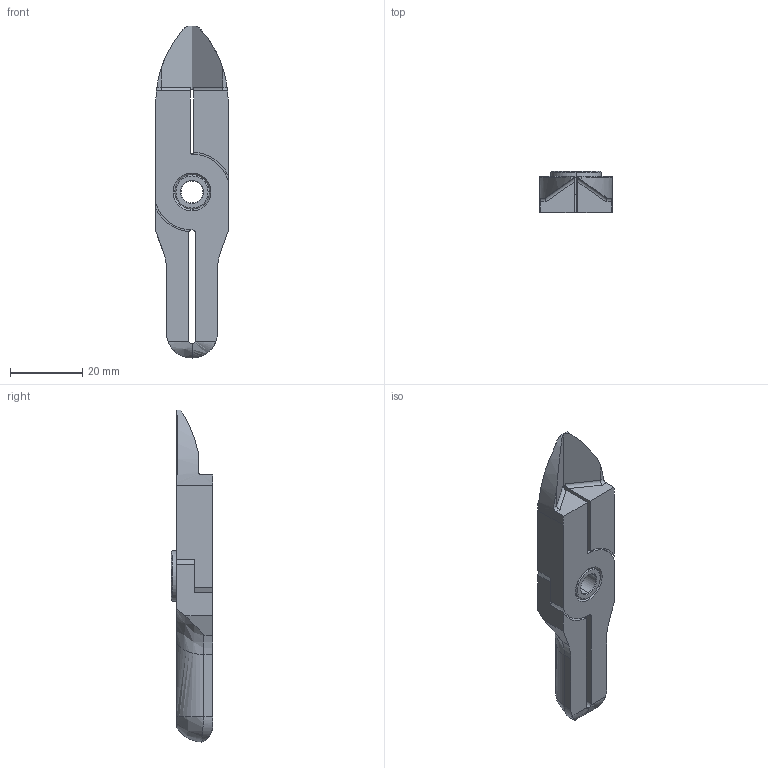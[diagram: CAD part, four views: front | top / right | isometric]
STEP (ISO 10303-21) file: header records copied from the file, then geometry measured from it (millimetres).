
FILE_DESCRIPTION (( 'STEP AP214' ), '1' );
FILE_NAME ('NY25AJL.STEP', '2019-11-28T03:39:06', ( '微软用户' ), ( '微软中国' ), 'SwSTEP 2.0', 'SolidWorks 2016', '' );
FILE_SCHEMA (( 'AUTOMOTIVE_DESIGN' ));
Length unit declared in the file: millimetre
Products named in the file (4): BR2; BR1; BS; NY25AJL
Assembly tree (3 placements, depth 2):
  NY25AJL
    BS
    BR1
    BR2
Bounding box: 20 x 11.5 x 92 mm (x, y, z)
Volume: 11408.1 mm3; surface area: 7681.5 mm2
Topology: 3 solids, 3 shells, 125 faces, 330 edges, 212 vertices
Faces by surface type: plane 43, cylinder 35, cone 22, bspline 21, torus 4
Entity records: 4464 total; most frequent: CARTESIAN_POINT 1381, ORIENTED_EDGE 652, DIRECTION 581, EDGE_CURVE 326, AXIS2_PLACEMENT_3D 215, VERTEX_POINT 212, VECTOR 151, LINE 151
